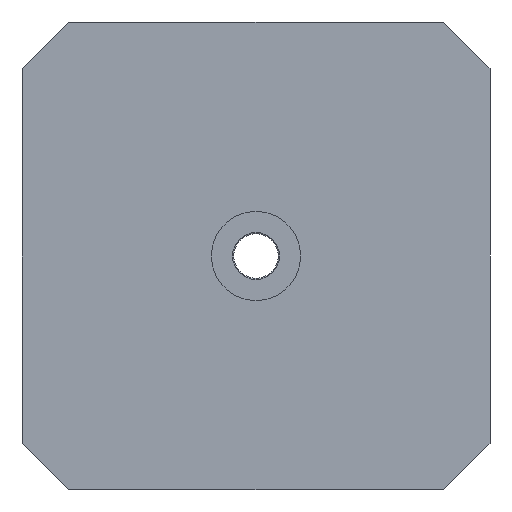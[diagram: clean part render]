
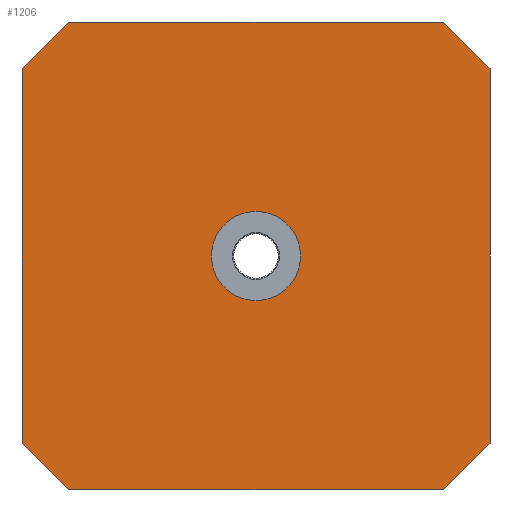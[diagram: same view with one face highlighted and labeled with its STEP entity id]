
A CAD part, front view. The second image highlights one B-rep face of the part: STEP entity #1206.
In plain terms, the highlighted planar face has unit normal (0, -1, 0).
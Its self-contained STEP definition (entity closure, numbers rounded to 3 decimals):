
#15 = CARTESIAN_POINT ( 'NONE',  ( 21., -50., -21. ) ) ;
#23 = CARTESIAN_POINT ( 'NONE',  ( 0., -50., 0. ) ) ;
#26 = DIRECTION ( 'NONE',  ( 0., 0., -1. ) ) ;
#45 = CARTESIAN_POINT ( 'NONE',  ( 4.2, -50., -42. ) ) ;
#50 = CARTESIAN_POINT ( 'NONE',  ( 42., -50., -37.8 ) ) ;
#78 = VERTEX_POINT ( 'NONE', #293 ) ;
#175 = CARTESIAN_POINT ( 'NONE',  ( 0., -50., -37.8 ) ) ;
#213 = VERTEX_POINT ( 'NONE', #706 ) ;
#227 = VECTOR ( 'NONE', #599, 1000. ) ;
#244 = CARTESIAN_POINT ( 'NONE',  ( 4.2, -50., 0. ) ) ;
#246 = DIRECTION ( 'NONE',  ( 0., 0., -1. ) ) ;
#265 = DIRECTION ( 'NONE',  ( 0., 0., -1. ) ) ;
#269 = ORIENTED_EDGE ( 'NONE', *, *, #992, .F. ) ;
#274 = DIRECTION ( 'NONE',  ( -0.707, 0., -0.707 ) ) ;
#293 = CARTESIAN_POINT ( 'NONE',  ( 37.8, -50., -42. ) ) ;
#306 = CARTESIAN_POINT ( 'NONE',  ( 37.8, -50., -42. ) ) ;
#310 = LINE ( 'NONE', #45, #919 ) ;
#387 = CIRCLE ( 'NONE', #1386, 4. ) ;
#435 = ORIENTED_EDGE ( 'NONE', *, *, #728, .F. ) ;
#436 = PLANE ( 'NONE',  #1220 ) ;
#444 = ORIENTED_EDGE ( 'NONE', *, *, #780, .T. ) ;
#471 = CARTESIAN_POINT ( 'NONE',  ( 37.8, -50., 0. ) ) ;
#481 = VECTOR ( 'NONE', #723, 1000. ) ;
#494 = EDGE_CURVE ( 'NONE', #502, #841, #310, .T. ) ;
#500 = CIRCLE ( 'NONE', #1107, 4. ) ;
#502 = VERTEX_POINT ( 'NONE', #175 ) ;
#524 = DIRECTION ( 'NONE',  ( 0., -1., 0. ) ) ;
#560 = FACE_BOUND ( 'NONE', #611, .T. ) ;
#599 = DIRECTION ( 'NONE',  ( 0., 0., 1. ) ) ;
#603 = CARTESIAN_POINT ( 'NONE',  ( 42., -50., 0. ) ) ;
#611 = EDGE_LOOP ( 'NONE', ( #435, #269 ) ) ;
#643 = CARTESIAN_POINT ( 'NONE',  ( 21., -50., -25. ) ) ;
#670 = VECTOR ( 'NONE', #1697, 1000. ) ;
#681 = VERTEX_POINT ( 'NONE', #1192 ) ;
#686 = LINE ( 'NONE', #1366, #948 ) ;
#706 = CARTESIAN_POINT ( 'NONE',  ( 0., -50., -4.2 ) ) ;
#723 = DIRECTION ( 'NONE',  ( -0.707, 0., 0.707 ) ) ;
#728 = EDGE_CURVE ( 'NONE', #980, #1256, #387, .T. ) ;
#729 = ORIENTED_EDGE ( 'NONE', *, *, #494, .T. ) ;
#759 = DIRECTION ( 'NONE',  ( 0., 0., -1. ) ) ;
#780 = EDGE_CURVE ( 'NONE', #1720, #213, #686, .T. ) ;
#799 = ORIENTED_EDGE ( 'NONE', *, *, #1583, .F. ) ;
#841 = VERTEX_POINT ( 'NONE', #1214 ) ;
#842 = DIRECTION ( 'NONE',  ( 0.707, 0., 0.707 ) ) ;
#898 = ORIENTED_EDGE ( 'NONE', *, *, #1529, .T. ) ;
#919 = VECTOR ( 'NONE', #976, 1000. ) ;
#920 = LINE ( 'NONE', #603, #1394 ) ;
#948 = VECTOR ( 'NONE', #274, 1000. ) ;
#959 = DIRECTION ( 'NONE',  ( 0., -1., 0. ) ) ;
#976 = DIRECTION ( 'NONE',  ( 0.707, 0., -0.707 ) ) ;
#980 = VERTEX_POINT ( 'NONE', #1475 ) ;
#992 = EDGE_CURVE ( 'NONE', #1256, #980, #500, .T. ) ;
#1003 = LINE ( 'NONE', #1291, #227 ) ;
#1014 = CARTESIAN_POINT ( 'NONE',  ( 0., -50., 0. ) ) ;
#1041 = ORIENTED_EDGE ( 'NONE', *, *, #1216, .T. ) ;
#1098 = DIRECTION ( 'NONE',  ( 0., -1., 0. ) ) ;
#1107 = AXIS2_PLACEMENT_3D ( 'NONE', #1166, #524, #759 ) ;
#1113 = ORIENTED_EDGE ( 'NONE', *, *, #1549, .F. ) ;
#1161 = VECTOR ( 'NONE', #842, 1000. ) ;
#1166 = CARTESIAN_POINT ( 'NONE',  ( 21., -50., -21. ) ) ;
#1192 = CARTESIAN_POINT ( 'NONE',  ( 42., -50., -4.2 ) ) ;
#1202 = VERTEX_POINT ( 'NONE', #1661 ) ;
#1206 = ADVANCED_FACE ( 'NONE', ( #560, #1229 ), #436, .T. ) ;
#1210 = ORIENTED_EDGE ( 'NONE', *, *, #1654, .F. ) ;
#1214 = CARTESIAN_POINT ( 'NONE',  ( 4.2, -50., -42. ) ) ;
#1216 = EDGE_CURVE ( 'NONE', #78, #1677, #1532, .T. ) ;
#1220 = AXIS2_PLACEMENT_3D ( 'NONE', #23, #1098, #265 ) ;
#1229 = FACE_OUTER_BOUND ( 'NONE', #1318, .T. ) ;
#1256 = VERTEX_POINT ( 'NONE', #643 ) ;
#1258 = LINE ( 'NONE', #471, #481 ) ;
#1270 = EDGE_CURVE ( 'NONE', #681, #1677, #920, .T. ) ;
#1291 = CARTESIAN_POINT ( 'NONE',  ( 0., -50., 0. ) ) ;
#1318 = EDGE_LOOP ( 'NONE', ( #1041, #1557, #898, #799, #444, #1113, #729, #1210 ) ) ;
#1366 = CARTESIAN_POINT ( 'NONE',  ( 0., -50., -4.2 ) ) ;
#1386 = AXIS2_PLACEMENT_3D ( 'NONE', #15, #959, #26 ) ;
#1394 = VECTOR ( 'NONE', #246, 1000. ) ;
#1405 = DIRECTION ( 'NONE',  ( 1., 0., 0. ) ) ;
#1411 = LINE ( 'NONE', #1014, #1543 ) ;
#1435 = LINE ( 'NONE', #1569, #670 ) ;
#1475 = CARTESIAN_POINT ( 'NONE',  ( 21., -50., -17. ) ) ;
#1529 = EDGE_CURVE ( 'NONE', #681, #1202, #1258, .T. ) ;
#1532 = LINE ( 'NONE', #306, #1161 ) ;
#1543 = VECTOR ( 'NONE', #1405, 1000. ) ;
#1549 = EDGE_CURVE ( 'NONE', #502, #213, #1003, .T. ) ;
#1557 = ORIENTED_EDGE ( 'NONE', *, *, #1270, .F. ) ;
#1569 = CARTESIAN_POINT ( 'NONE',  ( 0., -50., -42. ) ) ;
#1583 = EDGE_CURVE ( 'NONE', #1720, #1202, #1411, .T. ) ;
#1654 = EDGE_CURVE ( 'NONE', #78, #841, #1435, .T. ) ;
#1661 = CARTESIAN_POINT ( 'NONE',  ( 37.8, -50., 0. ) ) ;
#1677 = VERTEX_POINT ( 'NONE', #50 ) ;
#1697 = DIRECTION ( 'NONE',  ( -1., 0., 0. ) ) ;
#1720 = VERTEX_POINT ( 'NONE', #244 ) ;
